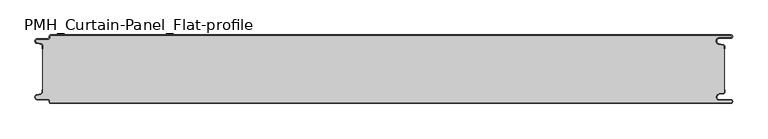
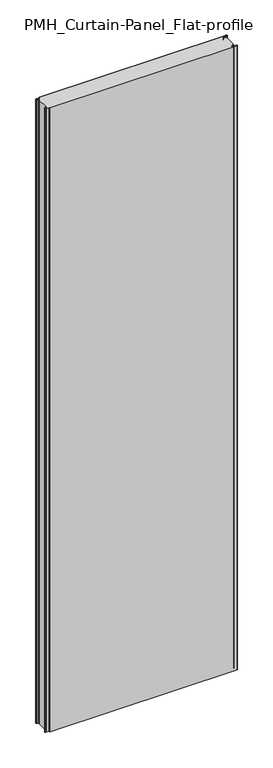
"""IFC4 building model written with IfcOpenShell, lengths in millimetres: plate geometry, PMH_Curtain-Panel_Flat-profile : ACH_PMH_Stone-wool-Panel_100M."""

from ifc_helpers import new_model, si_unit, point, frame, frame_2d, origin, origin_with_axes, place, context, project, spatial, polyline, circle_curve, trimmed, segment, composite_curve, outline, extrude, source, transform, mapped, element, save
from ifc_brep_helpers import plane_surface, cylinder_surface, revolved_surface, advanced_brep


def pmh_curtain_panel_flat_profile_ba4a8c55(model_context):
    return source(origin(), model_context, "Body", "SolidModel", [
        advanced_brep(
        [(508.1, 0.0, 3500.0), (-487.4, 0.0, 3500.0), (-489.4, -2.0, 3500.0), (-489.4, -3.4, 3500.0), (-491.4, -5.4, 3500.0), (-506.9, -5.4, 3500.0), (-507.7098239, -12.5077322, 3500.0), (-501.5500979, -13.929817, 3500.0), (-500.0, -15.878557, 3500.0), (-500.0, -20.0, 3500.0), (-499.2, -20.0, 3500.0), (-499.2, -15.878557, 3500.0), (-501.370137, -13.1503208, 3500.0), (-507.529863, -11.728236, 3500.0), (-506.9, -6.2, 3500.0), (-491.4, -6.2, 3500.0), (-488.6, -3.4, 3500.0), (-488.6, -2.0, 3500.0), (-487.4, -0.8, 3500.0), (508.1, -0.8, 3500.0), (508.1, -4.2, 3500.0), (491.1, -4.2, 3500.0), (490.2664884, -13.7270771, 3500.0), (496.7125669, -14.8636953, 3500.0), (498.2, -16.6363492, 3500.0), (498.2, -20.0, 3500.0), (499.0, -20.0, 3500.0), (499.0, -16.6363492, 3500.0), (496.8514855, -14.0758491, 3500.0), (490.405407, -12.939231, 3500.0), (491.1, -5.0, 3500.0), (508.1, -5.0, 3500.0), (510.6, -2.5000002, 3500.0), (-487.4, 0.0, 0.0), (508.1, 0.0, 0.0), (510.6, -2.4999998, 0.0), (508.1, -5.0, 0.0), (491.1, -5.0, 0.0), (490.405407, -12.939231, 0.0), (496.8514855, -14.0758491, 0.0), (499.0, -16.6363492, 0.0), (499.0, -20.0, 0.0), (498.2, -20.0, 0.0), (498.2, -16.6363492, 0.0), (496.7125669, -14.8636953, 0.0), (490.2664884, -13.7270771, 0.0), (491.1, -4.2, 0.0), (508.1, -4.2, 0.0), (508.1, -0.8, 0.0), (-487.4, -0.8, 0.0), (-488.6, -2.0, 0.0), (-488.6, -3.4, 0.0), (-491.4, -6.2, 0.0), (-506.9, -6.2, 0.0), (-507.529863, -11.7282362, 0.0), (-501.370137, -13.150321, 0.0), (-499.2, -15.878557, 0.0), (-499.2, -20.0, 0.0), (-500.0, -20.0, 0.0), (-500.0, -15.878557, 0.0), (-501.5500978, -13.9298169, 0.0), (-507.7098239, -12.507732, 0.0), (-506.9, -5.4, 0.0), (-491.4, -5.4, 0.0), (-489.4, -3.4, 0.0), (-489.4, -2.0, 0.0)],
        [
            (0, 1),
            (1, 2, circle_curve(frame((-487.4, -2.0, 3500.0), z_axis=(0.0, 0.0, 1.0), x_axis=(1.0, 0.0, 0.0)), 2.0)),
            (2, 3),
            (3, 4, circle_curve(frame((-491.4, -3.4, 3500.0), z_axis=(0.0, 0.0, -1.0), x_axis=(1.0, 0.0, 0.0)), 2.0)),
            (4, 5),
            (5, 6, circle_curve(frame((-506.9, -9.0, 3500.0), z_axis=(0.0, 0.0, 1.0), x_axis=(1.0, 0.0, 0.0)), 3.6)),
            (6, 7),
            (7, 8, circle_curve(frame((-502.0, -15.878557, 3500.0), z_axis=(0.0, 0.0, -1.0), x_axis=(1.0, 0.0, 0.0)), 2.0)),
            (8, 9),
            (9, 10),
            (10, 11),
            (11, 12, circle_curve(frame((-502.0, -15.878557, 3500.0), z_axis=(0.0, 0.0, 1.0), x_axis=(1.0, 0.0, 0.0)), 2.8)),
            (12, 13),
            (13, 14, circle_curve(frame((-506.9, -9.0, 3500.0), z_axis=(0.0, 0.0, -1.0), x_axis=(1.0, 0.0, 0.0)), 2.8)),
            (14, 15),
            (15, 16, circle_curve(frame((-491.4, -3.4, 3500.0), z_axis=(0.0, 0.0, 1.0), x_axis=(1.0, 0.0, 0.0)), 2.8)),
            (16, 17),
            (17, 18, circle_curve(frame((-487.4, -2.0, 3500.0), z_axis=(0.0, 0.0, -1.0), x_axis=(1.0, 0.0, 0.0)), 1.2)),
            (18, 19),
            (19, 20, circle_curve(frame((508.1, -2.5, 3500.0), z_axis=(0.0, 0.0, -1.0), x_axis=(1.0, 0.0, 0.0)), 1.7)),
            (20, 21),
            (21, 22, circle_curve(frame((491.1, -9.0, 3500.0), z_axis=(0.0, 0.0, 1.0), x_axis=(1.0, 0.0, 0.0)), 4.8)),
            (22, 23),
            (23, 24, circle_curve(frame((496.4, -16.6363492, 3500.0), z_axis=(0.0, 0.0, -1.0), x_axis=(1.0, 0.0, 0.0)), 1.8)),
            (24, 25),
            (25, 26),
            (26, 27),
            (27, 28, circle_curve(frame((496.4, -16.6363492, 3500.0), z_axis=(0.0, 0.0, 1.0), x_axis=(1.0, 0.0, 0.0)), 2.6)),
            (28, 29),
            (29, 30, circle_curve(frame((491.1, -9.0, 3500.0), z_axis=(0.0, 0.0, -1.0), x_axis=(1.0, 0.0, 0.0)), 4.0)),
            (30, 31),
            (31, 32, circle_curve(frame((508.1, -2.5, 3500.0), z_axis=(0.0, 0.0, 1.0), x_axis=(1.0, 0.0, 0.0)), 2.5)),
            (32, 0, circle_curve(frame((508.1, -2.5, 3500.0), z_axis=(0.0, 0.0, 1.0), x_axis=(1.0, 0.0, 0.0)), 2.5)),
            (33, 34),
            (34, 35, circle_curve(frame((508.1, -2.5, 0.0), z_axis=(0.0, 0.0, -1.0), x_axis=(1.0, 0.0, 0.0)), 2.5)),
            (35, 36, circle_curve(frame((508.1, -2.5, 0.0), z_axis=(0.0, 0.0, -1.0), x_axis=(1.0, 0.0, 0.0)), 2.5)),
            (36, 37),
            (37, 38, circle_curve(frame((491.1, -9.0, 0.0), z_axis=(0.0, 0.0, 1.0), x_axis=(1.0, 0.0, 0.0)), 4.0)),
            (38, 39),
            (39, 40, circle_curve(frame((496.4, -16.6363492, 0.0), z_axis=(0.0, 0.0, -1.0), x_axis=(1.0, 0.0, 0.0)), 2.6)),
            (40, 41),
            (41, 42),
            (42, 43),
            (43, 44, circle_curve(frame((496.4, -16.6363492, 0.0), z_axis=(0.0, 0.0, 1.0), x_axis=(1.0, 0.0, 0.0)), 1.8)),
            (44, 45),
            (45, 46, circle_curve(frame((491.1, -9.0, 0.0), z_axis=(0.0, 0.0, -1.0), x_axis=(1.0, 0.0, 0.0)), 4.8)),
            (46, 47),
            (47, 48, circle_curve(frame((508.1, -2.5, 0.0), z_axis=(0.0, 0.0, 1.0), x_axis=(1.0, 0.0, 0.0)), 1.7)),
            (48, 49),
            (49, 50, circle_curve(frame((-487.4, -2.0, 0.0), z_axis=(0.0, 0.0, 1.0), x_axis=(1.0, 0.0, 0.0)), 1.2)),
            (50, 51),
            (51, 52, circle_curve(frame((-491.4, -3.4, 0.0), z_axis=(0.0, 0.0, -1.0), x_axis=(1.0, 0.0, 0.0)), 2.8)),
            (52, 53),
            (53, 54, circle_curve(frame((-506.9, -9.0, 0.0), z_axis=(0.0, 0.0, 1.0), x_axis=(1.0, 0.0, 0.0)), 2.8)),
            (54, 55),
            (55, 56, circle_curve(frame((-502.0, -15.878557, 0.0), z_axis=(0.0, 0.0, -1.0), x_axis=(1.0, 0.0, 0.0)), 2.8)),
            (56, 57),
            (57, 58),
            (58, 59),
            (59, 60, circle_curve(frame((-502.0, -15.878557, 0.0), z_axis=(0.0, 0.0, 1.0), x_axis=(1.0, 0.0, 0.0)), 2.0)),
            (60, 61),
            (61, 62, circle_curve(frame((-506.9, -9.0, 0.0), z_axis=(0.0, 0.0, -1.0), x_axis=(1.0, 0.0, 0.0)), 3.6)),
            (62, 63),
            (63, 64, circle_curve(frame((-491.4, -3.4, 0.0), z_axis=(0.0, 0.0, 1.0), x_axis=(1.0, 0.0, 0.0)), 2.0)),
            (64, 65),
            (65, 33, circle_curve(frame((-487.4, -2.0, 0.0), z_axis=(0.0, 0.0, -1.0), x_axis=(1.0, 0.0, 0.0)), 2.0)),
            (1, 33),
            (65, 2),
            (64, 3),
            (63, 4),
            (62, 5),
            (61, 6),
            (60, 7),
            (59, 8),
            (58, 9),
            (57, 10),
            (56, 11),
            (55, 12),
            (54, 13),
            (53, 14),
            (52, 15),
            (51, 16),
            (50, 17),
            (49, 18),
            (48, 19),
            (47, 20),
            (46, 21),
            (45, 22),
            (44, 23),
            (43, 24),
            (42, 25),
            (41, 26),
            (40, 27),
            (39, 28),
            (38, 29),
            (37, 30),
            (36, 31),
            (34, 0),
        ],
        [
            plane_surface(frame((-500.0, 0.0, 3500.0), z_axis=(0.0, 0.0, 1.0), x_axis=(0.0, 1.0, 0.0))),
            plane_surface(frame((-500.0, 0.0, 0.0), z_axis=(0.0, 0.0, -1.0), x_axis=(0.0, 1.0, 0.0))),
            cylinder_surface(frame((-487.4, -2.0, 3500.0), z_axis=(0.0, 0.0, 1.0), x_axis=(1.0, 0.0, 0.0)), 2.0),
            plane_surface(frame((-489.4, -2.0, 3500.0), z_axis=(-1.0, 0.0, 0.0), x_axis=(0.0, 0.0, -1.0))),
            revolved_surface(polyline([(-489.4, -3.4, 0.0), (-489.4, -3.4, 3500.0)]), (-491.4, -3.4, 3500.0), (0.0, 0.0, -1.0)),
            plane_surface(frame((-491.4, -5.4, 3500.0), z_axis=(0.0, 1.0, 0.0), x_axis=(0.0, 0.0, -1.0))),
            cylinder_surface(frame((-506.9, -9.0, 3500.0), z_axis=(0.0, 0.0, 1.0), x_axis=(1.0, 0.0, 0.0)), 3.6),
            plane_surface(frame((-507.7098239, -12.507732, 3500.0), z_axis=(-0.2249510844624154, -0.9743700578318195, 0.0), x_axis=(0.0, 0.0, -1.0))),
            revolved_surface(polyline([(-500.0, -15.878557, 0.0), (-500.0, -15.878557, 3500.0)]), (-502.0, -15.878557, 3500.0), (0.0, 0.0, -1.0)),
            plane_surface(frame((-500.0, -15.878557, 3500.0), z_axis=(-1.0, 0.0, 0.0), x_axis=(0.0, 0.0, -1.0))),
            plane_surface(frame((-500.0, -20.0, 3500.0), z_axis=(0.0, -1.0, 0.0), x_axis=(0.0, 0.0, -1.0))),
            plane_surface(frame((-499.2, -20.0, 3500.0), z_axis=(1.0, 0.0, 0.0), x_axis=(0.0, 0.0, -1.0))),
            cylinder_surface(frame((-502.0, -15.878557, 3500.0), z_axis=(0.0, 0.0, 1.0), x_axis=(1.0, 0.0, 0.0)), 2.8),
            plane_surface(frame((-501.370137, -13.150321, 3500.0), z_axis=(0.22495108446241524, 0.9743700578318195, 0.0), x_axis=(0.0, 0.0, -1.0))),
            revolved_surface(polyline([(-504.09999999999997, -9.0, 0.0), (-504.09999999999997, -9.0, 3500.0)]), (-506.9, -9.0, 3500.0), (0.0, 0.0, -1.0)),
            plane_surface(frame((-506.9, -6.2, 3500.0), z_axis=(0.0, -1.0, 0.0), x_axis=(0.0, 0.0, -1.0))),
            cylinder_surface(frame((-491.4, -3.4, 3500.0), z_axis=(0.0, 0.0, 1.0), x_axis=(1.0, 0.0, 0.0)), 2.8),
            plane_surface(frame((-488.6, -3.4, 3500.0), z_axis=(1.0, 0.0, 0.0), x_axis=(0.0, 0.0, -1.0))),
            revolved_surface(polyline([(-486.2, -2.0, 0.0), (-486.2, -2.0, 3500.0)]), (-487.4, -2.0, 3500.0), (0.0, 0.0, -1.0)),
            plane_surface(frame((-487.4, -0.8, 3500.0), z_axis=(0.0, -1.0, 0.0), x_axis=(0.0, 0.0, -1.0))),
            revolved_surface(polyline([(509.8, -2.5, 0.0), (509.8, -2.5, 3500.0)]), (508.1, -2.5, 3500.0), (0.0, 0.0, -1.0)),
            plane_surface(frame((508.1, -4.2, 3500.0), z_axis=(0.0, 1.0, 0.0), x_axis=(0.0, 0.0, -1.0))),
            cylinder_surface(frame((491.1, -9.0, 3500.0), z_axis=(0.0, 0.0, 1.0), x_axis=(1.0, 0.0, 0.0)), 4.8),
            plane_surface(frame((490.2664884, -13.7270771, 3500.0), z_axis=(-0.17364826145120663, -0.984807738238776, 0.0), x_axis=(0.0, 0.0, -1.0))),
            revolved_surface(polyline([(498.2, -16.6363492, 0.0), (498.2, -16.6363492, 3500.0)]), (496.4, -16.6363492, 3500.0), (0.0, 0.0, -1.0)),
            plane_surface(frame((498.2, -16.6363492, 3500.0), z_axis=(-1.0, 0.0, 0.0), x_axis=(0.0, 0.0, -1.0))),
            plane_surface(frame((498.2, -20.0, 3500.0), z_axis=(0.0, -1.0, 0.0), x_axis=(0.0, 0.0, -1.0))),
            plane_surface(frame((499.0, -20.0, 3500.0), z_axis=(1.0, 0.0, 0.0), x_axis=(0.0, 0.0, -1.0))),
            cylinder_surface(frame((496.4, -16.6363492, 3500.0), z_axis=(0.0, 0.0, 1.0), x_axis=(1.0, 0.0, 0.0)), 2.6),
            plane_surface(frame((496.8514855, -14.0758491, 3500.0), z_axis=(0.17364826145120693, 0.9848077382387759, 0.0), x_axis=(0.0, 0.0, -1.0))),
            revolved_surface(polyline([(495.1, -9.0, 0.0), (495.1, -9.0, 3500.0)]), (491.1, -9.0, 3500.0), (0.0, 0.0, -1.0)),
            plane_surface(frame((491.1, -5.0, 3500.0), z_axis=(0.0, -1.0, 0.0), x_axis=(0.0, 0.0, -1.0))),
            cylinder_surface(frame((508.1, -2.5, 3500.0), z_axis=(0.0, 0.0, 1.0), x_axis=(1.0, 0.0, 0.0)), 2.5),
            plane_surface(frame((490.5783588, 0.0, 3500.0), z_axis=(0.0, 1.0, 0.0), x_axis=(0.0, 0.0, -1.0))),
        ],
        [
            (0, [[1, 2, 3, 4, 5, 6, 7, 8, 9, 10, 11, 12, 13, 14, 15, 16, 17, 18, 19, 20, 21, 22, 23, 24, 25, 26, 27, 28, 29, 30, 31, 32, 33]]),
            (1, [[34, 35, 36, 37, 38, 39, 40, 41, 42, 43, 44, 45, 46, 47, 48, 49, 50, 51, 52, 53, 54, 55, 56, 57, 58, 59, 60, 61, 62, 63, 64, 65, 66]]),
            (2, [[-2, 67, -66, 68]]),
            (3, [[-3, -68, -65, 69]]),
            (4, [[-4, -69, -64, 70]]),
            (5, [[-5, -70, -63, 71]]),
            (6, [[-6, -71, -62, 72]]),
            (7, [[-7, -72, -61, 73]]),
            (8, [[-8, -73, -60, 74]]),
            (9, [[-9, -74, -59, 75]]),
            (10, [[-10, -75, -58, 76]]),
            (11, [[-11, -76, -57, 77]]),
            (12, [[-12, -77, -56, 78]]),
            (13, [[-13, -78, -55, 79]]),
            (14, [[-14, -79, -54, 80]]),
            (15, [[-15, -80, -53, 81]]),
            (16, [[-16, -81, -52, 82]]),
            (17, [[-17, -82, -51, 83]]),
            (18, [[-18, -83, -50, 84]]),
            (19, [[-19, -84, -49, 85]]),
            (20, [[-20, -85, -48, 86]]),
            (21, [[-21, -86, -47, 87]]),
            (22, [[-22, -87, -46, 88]]),
            (23, [[-23, -88, -45, 89]]),
            (24, [[-24, -89, -44, 90]]),
            (25, [[-25, -90, -43, 91]]),
            (26, [[-26, -91, -42, 92]]),
            (27, [[-27, -92, -41, 93]]),
            (28, [[-28, -93, -40, 94]]),
            (29, [[-29, -94, -39, 95]]),
            (30, [[-30, -95, -38, 96]]),
            (31, [[-31, -96, -37, 97]]),
            (32, [[-97, -36, -35, 98, -33, -32]]),
            (33, [[-1, -98, -34, -67]]),
        ],
    ),
        extrude(outline(composite_curve([segment(polyline([(-499.2, -84.1214426), (-499.2, -15.8785573)]), True, "CONTINUOUS"), segment(trimmed(circle_curve(frame_2d((-502.0, -15.8785573)), 2.8), [point((-499.2, -15.8785573))], [point((-501.370137, -13.1503212))], True, "CARTESIAN"), True, "CONTINUOUS"), segment(polyline([(-501.370137, -13.1503212), (-507.5298631, -11.7282362)]), True, "CONTINUOUS"), segment(trimmed(circle_curve(frame_2d((-506.9, -9.0)), 2.8), [point((-507.5298631, -11.7282362))], [point((-506.9, -6.2))], False, "CARTESIAN"), True, "CONTINUOUS"), segment(polyline([(-506.9, -6.2), (-491.4000001, -6.2)]), True, "CONTINUOUS"), segment(trimmed(circle_curve(frame_2d((-491.4000001, -3.4)), 2.8), [point((-491.4000001, -6.2))], [point((-488.6000001, -3.4))], True, "CARTESIAN"), True, "CONTINUOUS"), segment(polyline([(-488.6000001, -3.4), (-488.6000001, -2.0)]), True, "CONTINUOUS"), segment(trimmed(circle_curve(frame_2d((-487.4000001, -2.0)), 1.2), [point((-488.6000001, -2.0))], [point((-487.4000001, -0.8))], False, "CARTESIAN"), True, "CONTINUOUS"), segment(polyline([(-487.4000001, -0.8), (508.1, -0.8)]), True, "CONTINUOUS"), segment(trimmed(circle_curve(frame_2d((508.1, -2.5)), 1.7), [point((508.1, -0.8))], [point((508.1, -4.2))], False, "CARTESIAN"), True, "CONTINUOUS"), segment(polyline([(508.1, -4.2), (491.1, -4.2)]), True, "CONTINUOUS"), segment(trimmed(circle_curve(frame_2d((491.1, -9.0)), 4.8), [point((491.1, -4.2))], [point((490.2664883, -13.7270771))], True, "CARTESIAN"), True, "CONTINUOUS"), segment(polyline([(490.2664883, -13.7270771), (496.7125668, -14.8636953)]), True, "CONTINUOUS"), segment(trimmed(circle_curve(frame_2d((496.4, -16.6363492)), 1.8), [point((496.7125668, -14.8636953))], [point((498.2, -16.6363492))], False, "CARTESIAN"), True, "CONTINUOUS"), segment(polyline([(498.2, -16.6363492), (498.2, -83.3636508)]), True, "CONTINUOUS"), segment(trimmed(circle_curve(frame_2d((496.4, -83.3636508)), 1.8), [point((498.2, -83.3636508))], [point((496.7125668, -85.1363047))], False, "CARTESIAN"), True, "CONTINUOUS"), segment(polyline([(496.7125668, -85.1363047), (490.2664883, -86.2729229)]), True, "CONTINUOUS"), segment(trimmed(circle_curve(frame_2d((491.1, -91.0)), 4.8), [point((490.2664883, -86.2729229))], [point((491.1, -95.8))], True, "CARTESIAN"), True, "CONTINUOUS"), segment(polyline([(491.1, -95.8), (508.1, -95.8)]), True, "CONTINUOUS"), segment(trimmed(circle_curve(frame_2d((508.1, -97.5)), 1.7), [point((508.1, -95.8))], [point((508.1, -99.2))], False, "CARTESIAN"), True, "CONTINUOUS"), segment(polyline([(508.1, -99.2), (-487.4000001, -99.2)]), True, "CONTINUOUS"), segment(trimmed(circle_curve(frame_2d((-487.4000001, -98.0)), 1.2), [point((-487.4000001, -99.2))], [point((-488.6000001, -98.0))], False, "CARTESIAN"), True, "CONTINUOUS"), segment(polyline([(-488.6000001, -98.0), (-488.6000001, -96.6)]), True, "CONTINUOUS"), segment(trimmed(circle_curve(frame_2d((-491.4000001, -96.6)), 2.8), [point((-488.6000001, -96.6))], [point((-491.4000001, -93.8))], True, "CARTESIAN"), True, "CONTINUOUS"), segment(polyline([(-491.4000001, -93.8), (-506.9, -93.8)]), True, "CONTINUOUS"), segment(trimmed(circle_curve(frame_2d((-506.9, -91.0)), 2.8), [point((-506.9, -93.8))], [point((-507.5298631, -88.2717638))], False, "CARTESIAN"), True, "CONTINUOUS"), segment(polyline([(-507.5298631, -88.2717638), (-501.370137, -86.8496788)]), True, "CONTINUOUS"), segment(trimmed(circle_curve(frame_2d((-502.0, -84.1214426)), 2.8), [point((-501.370137, -86.8496788))], [point((-499.2, -84.1214426))], True, "CARTESIAN"), True, "CONTINUOUS")], self_intersect=False)), origin_with_axes(), (0.0, 0.0, 1.0), 3500.0),
        advanced_brep(
        [(-487.4, -100.0, 3500.0), (508.1, -100.0, 3500.0), (510.6, -97.5000002, 3500.0), (508.1, -95.0, 3500.0), (491.1, -95.0, 3500.0), (490.405407, -87.060769, 3500.0), (496.8514855, -85.9241509, 3500.0), (499.0, -83.3636508, 3500.0), (499.0, -80.0, 3500.0), (498.2, -80.0, 3500.0), (498.2, -83.3636508, 3500.0), (496.7125669, -85.1363047, 3500.0), (490.2664884, -86.2729229, 3500.0), (491.1, -95.8, 3500.0), (508.1, -95.8, 3500.0), (508.1, -99.2, 3500.0), (-487.4, -99.2, 3500.0), (-488.6, -98.0, 3500.0), (-488.6, -96.6, 3500.0), (-491.4, -93.8, 3500.0), (-506.9, -93.8, 3500.0), (-507.529863, -88.2717638, 3500.0), (-501.370137, -86.849679, 3500.0), (-499.2, -84.121443, 3500.0), (-499.2, -80.0, 3500.0), (-500.0, -80.0, 3500.0), (-500.0, -84.121443, 3500.0), (-501.5500978, -86.0701831, 3500.0), (-507.7098239, -87.492268, 3500.0), (-506.9, -94.6, 3500.0), (-491.4, -94.6, 3500.0), (-489.4, -96.6, 3500.0), (-489.4, -98.0, 3500.0), (508.1, -100.0, 0.0), (-487.4, -100.0, 0.0), (-489.4, -98.0, 0.0), (-489.4, -96.6, 0.0), (-491.4, -94.6, 0.0), (-506.9, -94.6, 0.0), (-507.7098239, -87.4922678, 0.0), (-501.5500979, -86.070183, 0.0), (-500.0, -84.121443, 0.0), (-500.0, -80.0, 0.0), (-499.2, -80.0, 0.0), (-499.2, -84.121443, 0.0), (-501.370137, -86.8496792, 0.0), (-507.529863, -88.271764, 0.0), (-506.9, -93.8, 0.0), (-491.4, -93.8, 0.0), (-488.6, -96.6, 0.0), (-488.6, -98.0, 0.0), (-487.4, -99.2, 0.0), (508.1, -99.2, 0.0), (508.1, -95.8, 0.0), (491.1, -95.8, 0.0), (490.2664884, -86.2729229, 0.0), (496.7125669, -85.1363047, 0.0), (498.2, -83.3636508, 0.0), (498.2, -80.0, 0.0), (499.0, -80.0, 0.0), (499.0, -83.3636508, 0.0), (496.8514855, -85.9241509, 0.0), (490.405407, -87.060769, 0.0), (491.1, -95.0, 0.0), (508.1, -95.0, 0.0), (510.6, -97.4999998, 0.0)],
        [
            (0, 1),
            (1, 2, circle_curve(frame((508.1, -97.5, 3500.0), z_axis=(0.0, 0.0, 1.0), x_axis=(1.0, 0.0, 0.0)), 2.5)),
            (2, 3, circle_curve(frame((508.1, -97.5, 3500.0), z_axis=(0.0, 0.0, 1.0), x_axis=(1.0, 0.0, 0.0)), 2.5)),
            (3, 4),
            (4, 5, circle_curve(frame((491.1, -91.0, 3500.0), z_axis=(0.0, 0.0, -1.0), x_axis=(1.0, 0.0, 0.0)), 4.0)),
            (5, 6),
            (6, 7, circle_curve(frame((496.4, -83.3636508, 3500.0), z_axis=(0.0, 0.0, 1.0), x_axis=(1.0, 0.0, 0.0)), 2.6)),
            (7, 8),
            (8, 9),
            (9, 10),
            (10, 11, circle_curve(frame((496.4, -83.3636508, 3500.0), z_axis=(0.0, 0.0, -1.0), x_axis=(1.0, 0.0, 0.0)), 1.8)),
            (11, 12),
            (12, 13, circle_curve(frame((491.1, -91.0, 3500.0), z_axis=(0.0, 0.0, 1.0), x_axis=(1.0, 0.0, 0.0)), 4.8)),
            (13, 14),
            (14, 15, circle_curve(frame((508.1, -97.5, 3500.0), z_axis=(0.0, 0.0, -1.0), x_axis=(1.0, 0.0, 0.0)), 1.7)),
            (15, 16),
            (16, 17, circle_curve(frame((-487.4, -98.0, 3500.0), z_axis=(0.0, 0.0, -1.0), x_axis=(1.0, 0.0, 0.0)), 1.2)),
            (17, 18),
            (18, 19, circle_curve(frame((-491.4, -96.6, 3500.0), z_axis=(0.0, 0.0, 1.0), x_axis=(1.0, 0.0, 0.0)), 2.8)),
            (19, 20),
            (20, 21, circle_curve(frame((-506.9, -91.0, 3500.0), z_axis=(0.0, 0.0, -1.0), x_axis=(1.0, 0.0, 0.0)), 2.8)),
            (21, 22),
            (22, 23, circle_curve(frame((-502.0, -84.121443, 3500.0), z_axis=(0.0, 0.0, 1.0), x_axis=(1.0, 0.0, 0.0)), 2.8)),
            (23, 24),
            (24, 25),
            (25, 26),
            (26, 27, circle_curve(frame((-502.0, -84.121443, 3500.0), z_axis=(0.0, 0.0, -1.0), x_axis=(1.0, 0.0, 0.0)), 2.0)),
            (27, 28),
            (28, 29, circle_curve(frame((-506.9, -91.0, 3500.0), z_axis=(0.0, 0.0, 1.0), x_axis=(1.0, 0.0, 0.0)), 3.6)),
            (29, 30),
            (30, 31, circle_curve(frame((-491.4, -96.6, 3500.0), z_axis=(0.0, 0.0, -1.0), x_axis=(1.0, 0.0, 0.0)), 2.0)),
            (31, 32),
            (32, 0, circle_curve(frame((-487.4, -98.0, 3500.0), z_axis=(0.0, 0.0, 1.0), x_axis=(1.0, 0.0, 0.0)), 2.0)),
            (33, 34),
            (34, 35, circle_curve(frame((-487.4, -98.0, 0.0), z_axis=(0.0, 0.0, -1.0), x_axis=(1.0, 0.0, 0.0)), 2.0)),
            (35, 36),
            (36, 37, circle_curve(frame((-491.4, -96.6, 0.0), z_axis=(0.0, 0.0, 1.0), x_axis=(1.0, 0.0, 0.0)), 2.0)),
            (37, 38),
            (38, 39, circle_curve(frame((-506.9, -91.0, 0.0), z_axis=(0.0, 0.0, -1.0), x_axis=(1.0, 0.0, 0.0)), 3.6)),
            (39, 40),
            (40, 41, circle_curve(frame((-502.0, -84.121443, 0.0), z_axis=(0.0, 0.0, 1.0), x_axis=(1.0, 0.0, 0.0)), 2.0)),
            (41, 42),
            (42, 43),
            (43, 44),
            (44, 45, circle_curve(frame((-502.0, -84.121443, 0.0), z_axis=(0.0, 0.0, -1.0), x_axis=(1.0, 0.0, 0.0)), 2.8)),
            (45, 46),
            (46, 47, circle_curve(frame((-506.9, -91.0, 0.0), z_axis=(0.0, 0.0, 1.0), x_axis=(1.0, 0.0, 0.0)), 2.8)),
            (47, 48),
            (48, 49, circle_curve(frame((-491.4, -96.6, 0.0), z_axis=(0.0, 0.0, -1.0), x_axis=(1.0, 0.0, 0.0)), 2.8)),
            (49, 50),
            (50, 51, circle_curve(frame((-487.4, -98.0, 0.0), z_axis=(0.0, 0.0, 1.0), x_axis=(1.0, 0.0, 0.0)), 1.2)),
            (51, 52),
            (52, 53, circle_curve(frame((508.1, -97.5, 0.0), z_axis=(0.0, 0.0, 1.0), x_axis=(1.0, 0.0, 0.0)), 1.7)),
            (53, 54),
            (54, 55, circle_curve(frame((491.1, -91.0, 0.0), z_axis=(0.0, 0.0, -1.0), x_axis=(1.0, 0.0, 0.0)), 4.8)),
            (55, 56),
            (56, 57, circle_curve(frame((496.4, -83.3636508, 0.0), z_axis=(0.0, 0.0, 1.0), x_axis=(1.0, 0.0, 0.0)), 1.8)),
            (57, 58),
            (58, 59),
            (59, 60),
            (60, 61, circle_curve(frame((496.4, -83.3636508, 0.0), z_axis=(0.0, 0.0, -1.0), x_axis=(1.0, 0.0, 0.0)), 2.6)),
            (61, 62),
            (62, 63, circle_curve(frame((491.1, -91.0, 0.0), z_axis=(0.0, 0.0, 1.0), x_axis=(1.0, 0.0, 0.0)), 4.0)),
            (63, 64),
            (64, 65, circle_curve(frame((508.1, -97.5, 0.0), z_axis=(0.0, 0.0, -1.0), x_axis=(1.0, 0.0, 0.0)), 2.5)),
            (65, 33, circle_curve(frame((508.1, -97.5, 0.0), z_axis=(0.0, 0.0, -1.0), x_axis=(1.0, 0.0, 0.0)), 2.5)),
            (0, 34),
            (33, 1),
            (64, 3),
            (63, 4),
            (62, 5),
            (61, 6),
            (60, 7),
            (59, 8),
            (58, 9),
            (57, 10),
            (56, 11),
            (55, 12),
            (54, 13),
            (53, 14),
            (52, 15),
            (51, 16),
            (50, 17),
            (49, 18),
            (48, 19),
            (47, 20),
            (46, 21),
            (45, 22),
            (44, 23),
            (43, 24),
            (42, 25),
            (41, 26),
            (40, 27),
            (39, 28),
            (38, 29),
            (37, 30),
            (36, 31),
            (35, 32),
        ],
        [
            plane_surface(frame((-500.0, -100.0, 3500.0), z_axis=(0.0, 0.0, 1.0), x_axis=(0.0, 1.0, 0.0))),
            plane_surface(frame((-500.0, -100.0, 0.0), z_axis=(0.0, 0.0, -1.0), x_axis=(0.0, 1.0, 0.0))),
            plane_surface(frame((490.5783588, -100.0, 3500.0), z_axis=(0.0, -1.0, 0.0), x_axis=(0.0, 0.0, -1.0))),
            cylinder_surface(frame((508.1, -97.5, 3500.0), z_axis=(0.0, 0.0, 1.0), x_axis=(1.0, 0.0, 0.0)), 2.5),
            plane_surface(frame((508.1, -95.0, 3500.0), z_axis=(0.0, 1.0, 0.0), x_axis=(0.0, 0.0, -1.0))),
            revolved_surface(polyline([(495.1, -91.0, 0.0), (495.1, -91.0, 3500.0)]), (491.1, -91.0, 3500.0), (0.0, 0.0, -1.0)),
            plane_surface(frame((490.405407, -87.060769, 3500.0), z_axis=(0.17364826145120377, -0.9848077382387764, 0.0), x_axis=(0.0, 0.0, -1.0))),
            cylinder_surface(frame((496.4, -83.3636508, 3500.0), z_axis=(0.0, 0.0, 1.0), x_axis=(1.0, 0.0, 0.0)), 2.6),
            plane_surface(frame((499.0, -83.3636508, 3500.0), z_axis=(1.0, 0.0, 0.0), x_axis=(0.0, 0.0, -1.0))),
            plane_surface(frame((499.0, -80.0, 3500.0), z_axis=(0.0, 1.0, 0.0), x_axis=(0.0, 0.0, -1.0))),
            plane_surface(frame((498.2, -80.0, 3500.0), z_axis=(-1.0, 0.0, 0.0), x_axis=(0.0, 0.0, -1.0))),
            revolved_surface(polyline([(498.2, -83.3636508, 0.0), (498.2, -83.3636508, 3500.0)]), (496.4, -83.3636508, 3500.0), (0.0, 0.0, -1.0)),
            plane_surface(frame((496.7125669, -85.1363047, 3500.0), z_axis=(-0.17364826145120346, 0.9848077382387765, 0.0), x_axis=(0.0, 0.0, -1.0))),
            cylinder_surface(frame((491.1, -91.0, 3500.0), z_axis=(0.0, 0.0, 1.0), x_axis=(1.0, 0.0, 0.0)), 4.8),
            plane_surface(frame((491.1, -95.8, 3500.0), z_axis=(0.0, -1.0, 0.0), x_axis=(0.0, 0.0, -1.0))),
            revolved_surface(polyline([(509.8, -97.5, 0.0), (509.8, -97.5, 3500.0)]), (508.1, -97.5, 3500.0), (0.0, 0.0, -1.0)),
            plane_surface(frame((508.1, -99.2, 3500.0), z_axis=(0.0, 1.0, 0.0), x_axis=(0.0, 0.0, -1.0))),
            revolved_surface(polyline([(-486.2, -98.0, 0.0), (-486.2, -98.0, 3500.0)]), (-487.4, -98.0, 3500.0), (0.0, 0.0, -1.0)),
            plane_surface(frame((-488.6, -98.0, 3500.0), z_axis=(1.0, 0.0, 0.0), x_axis=(0.0, 0.0, -1.0))),
            cylinder_surface(frame((-491.4, -96.6, 3500.0), z_axis=(0.0, 0.0, 1.0), x_axis=(1.0, 0.0, 0.0)), 2.8),
            plane_surface(frame((-491.4, -93.8, 3500.0), z_axis=(0.0, 1.0, 0.0), x_axis=(0.0, 0.0, -1.0))),
            revolved_surface(polyline([(-504.09999999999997, -91.0, 0.0), (-504.09999999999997, -91.0, 3500.0)]), (-506.9, -91.0, 3500.0), (0.0, 0.0, -1.0)),
            plane_surface(frame((-507.529863, -88.271764, 3500.0), z_axis=(0.2249510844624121, -0.9743700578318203, 0.0), x_axis=(0.0, 0.0, -1.0))),
            cylinder_surface(frame((-502.0, -84.121443, 3500.0), z_axis=(0.0, 0.0, 1.0), x_axis=(1.0, 0.0, 0.0)), 2.8),
            plane_surface(frame((-499.2, -84.121443, 3500.0), z_axis=(1.0, 0.0, 0.0), x_axis=(0.0, 0.0, -1.0))),
            plane_surface(frame((-499.2, -80.0, 3500.0), z_axis=(0.0, 1.0, 0.0), x_axis=(0.0, 0.0, -1.0))),
            plane_surface(frame((-500.0, -80.0, 3500.0), z_axis=(-1.0, 0.0, 0.0), x_axis=(0.0, 0.0, -1.0))),
            revolved_surface(polyline([(-500.0, -84.121443, 0.0), (-500.0, -84.121443, 3500.0)]), (-502.0, -84.121443, 3500.0), (0.0, 0.0, -1.0)),
            plane_surface(frame((-501.5500979, -86.070183, 3500.0), z_axis=(-0.22495108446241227, 0.9743700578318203, 0.0), x_axis=(0.0, 0.0, -1.0))),
            cylinder_surface(frame((-506.9, -91.0, 3500.0), z_axis=(0.0, 0.0, 1.0), x_axis=(1.0, 0.0, 0.0)), 3.6),
            plane_surface(frame((-506.9, -94.6, 3500.0), z_axis=(0.0, -1.0, 0.0), x_axis=(0.0, 0.0, -1.0))),
            revolved_surface(polyline([(-489.4, -96.6, 0.0), (-489.4, -96.6, 3500.0)]), (-491.4, -96.6, 3500.0), (0.0, 0.0, -1.0)),
            plane_surface(frame((-489.4, -96.6, 3500.0), z_axis=(-1.0, 0.0, 0.0), x_axis=(0.0, 0.0, -1.0))),
            cylinder_surface(frame((-487.4, -98.0, 3500.0), z_axis=(0.0, 0.0, 1.0), x_axis=(1.0, 0.0, 0.0)), 2.0),
        ],
        [
            (0, [[1, 2, 3, 4, 5, 6, 7, 8, 9, 10, 11, 12, 13, 14, 15, 16, 17, 18, 19, 20, 21, 22, 23, 24, 25, 26, 27, 28, 29, 30, 31, 32, 33]]),
            (1, [[34, 35, 36, 37, 38, 39, 40, 41, 42, 43, 44, 45, 46, 47, 48, 49, 50, 51, 52, 53, 54, 55, 56, 57, 58, 59, 60, 61, 62, 63, 64, 65, 66]]),
            (2, [[-1, 67, -34, 68]]),
            (3, [[-68, -66, -65, 69, -3, -2]]),
            (4, [[-4, -69, -64, 70]]),
            (5, [[-5, -70, -63, 71]]),
            (6, [[-6, -71, -62, 72]]),
            (7, [[-7, -72, -61, 73]]),
            (8, [[-8, -73, -60, 74]]),
            (9, [[-9, -74, -59, 75]]),
            (10, [[-10, -75, -58, 76]]),
            (11, [[-11, -76, -57, 77]]),
            (12, [[-12, -77, -56, 78]]),
            (13, [[-13, -78, -55, 79]]),
            (14, [[-14, -79, -54, 80]]),
            (15, [[-15, -80, -53, 81]]),
            (16, [[-16, -81, -52, 82]]),
            (17, [[-17, -82, -51, 83]]),
            (18, [[-18, -83, -50, 84]]),
            (19, [[-19, -84, -49, 85]]),
            (20, [[-20, -85, -48, 86]]),
            (21, [[-21, -86, -47, 87]]),
            (22, [[-22, -87, -46, 88]]),
            (23, [[-23, -88, -45, 89]]),
            (24, [[-24, -89, -44, 90]]),
            (25, [[-25, -90, -43, 91]]),
            (26, [[-26, -91, -42, 92]]),
            (27, [[-27, -92, -41, 93]]),
            (28, [[-28, -93, -40, 94]]),
            (29, [[-29, -94, -39, 95]]),
            (30, [[-30, -95, -38, 96]]),
            (31, [[-31, -96, -37, 97]]),
            (32, [[-32, -97, -36, 98]]),
            (33, [[-33, -98, -35, -67]]),
        ],
    ),
    ])


if __name__ == "__main__":
    model = new_model("IFC4")
    model_context = context("Model", 3, world=origin())
    ifc_project = project(units=[si_unit("LENGTHUNIT", "METRE", prefix="MILLI")], contexts=[model_context])
    site = spatial("IfcSite", under=ifc_project)
    building = spatial("IfcBuilding", under=site)
    placement = place(None, origin())
    pmh_curtain_panel_flat_profile_shape = pmh_curtain_panel_flat_profile_ba4a8c55(model_context)
    element("IfcPlate", 1, ObjectType="PMH_Curtain-Panel_Flat-profile : ACH_PMH_Stone-wool-Panel_100M", at=placement, inside=building, context=model_context, shape_type="MappedRepresentation", body=[
        mapped(pmh_curtain_panel_flat_profile_shape, transform((0.0, 0.0, 0.0), x_axis=(1.0, 0.0, 0.0), y_axis=(0.0, 1.0, 0.0), z_axis=(0.0, 0.0, 1.0))),
    ])
    save(model, "model.ifc")
